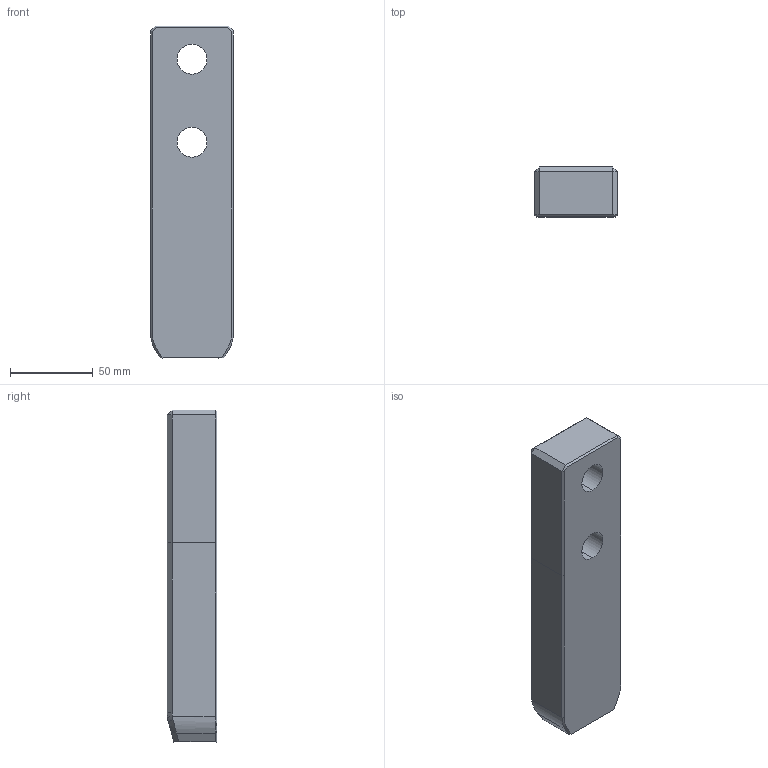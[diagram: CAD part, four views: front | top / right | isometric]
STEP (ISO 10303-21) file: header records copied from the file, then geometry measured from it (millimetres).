
FILE_DESCRIPTION((''),'2;1');
FILE_NAME('','2010-09-08T12:48:30+09:00',('misumi'),(''),'M/STEP i/f 1R2-14','CADmeister v5.1','');
FILE_SCHEMA(('AUTOMOTIVE_DESIGN'));
Length unit declared in the file: millimetre
Products named in the file (1): OGP50-200
Bounding box: 50 x 30 x 200 mm (x, y, z)
Volume: 275625.1 mm3; surface area: 36725.4 mm2
Topology: 1 solids, 1 shells, 49 faces, 114 edges, 68 vertices
Faces by surface type: plane 32, cylinder 9, cone 4, bspline 4
Entity records: 2151 total; most frequent: CARTESIAN_POINT 494, ORIENTED_EDGE 224, DIRECTION 216, COLOUR_RGB 121, CURVE_STYLE 118, PRESENTATION_STYLE_ASSIGNMENT 117, OVER_RIDING_STYLED_ITEM 114, EDGE_CURVE 112
